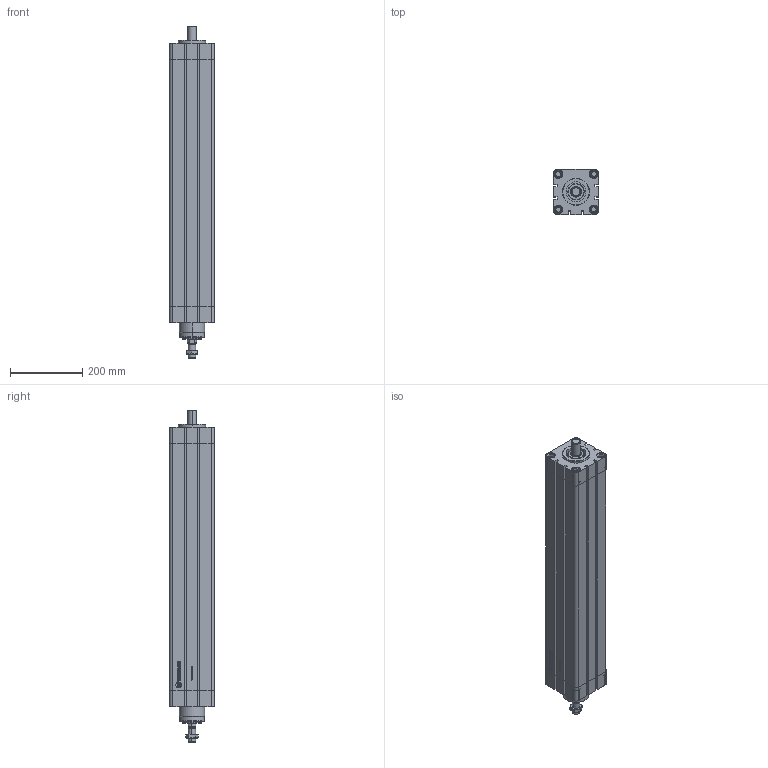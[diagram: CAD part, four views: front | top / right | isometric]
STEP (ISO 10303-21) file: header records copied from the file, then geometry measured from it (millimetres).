
FILE_DESCRIPTION (( 'STEP AP214' ), '1' );
FILE_NAME ('WACE-100-0500 (3D).STEP', '2019-06-29T07:47:49', ( '' ), ( '' ), 'SwSTEP 2.0', 'SolidWorks 2016', '' );
FILE_SCHEMA (( 'AUTOMOTIVE_DESIGN' ));
Length unit declared in the file: millimetre
Products named in the file (4): Group3^WACE-100-0500 (3D); Group2^WACE-100-0500 (3D); WACE-100-0500 (3D); Group1^WACE-100-0500 (3D)
Assembly tree (3 placements, depth 2):
  WACE-100-0500 (3D)
    Group1^WACE-100-0500 (3D)
    Group2^WACE-100-0500 (3D)
    Group3^WACE-100-0500 (3D)
Bounding box: 124 x 124 x 917.5 mm (x, y, z)
Volume: 8931717.6 mm3; surface area: 996498.7 mm2
Topology: 17 solids, 17 shells, 813 faces, 1973 edges, 1250 vertices
Faces by surface type: plane 526, cylinder 106, cone 96, bspline 79, torus 6
Entity records: 29257 total; most frequent: CARTESIAN_POINT 9409, ORIENTED_EDGE 3946, DIRECTION 3545, EDGE_CURVE 1973, LINE 1289, VECTOR 1289, VERTEX_POINT 1250, AXIS2_PLACEMENT_3D 1128
